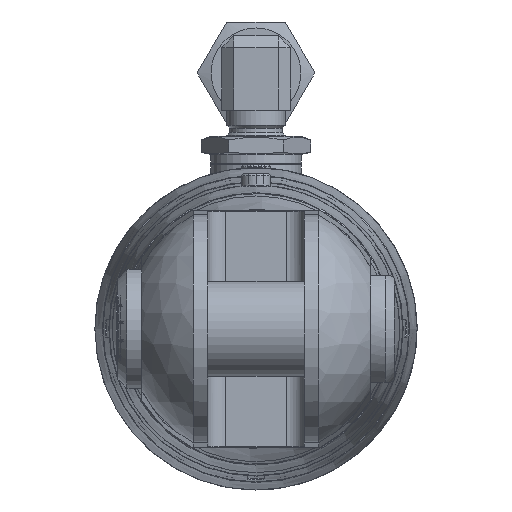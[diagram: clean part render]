
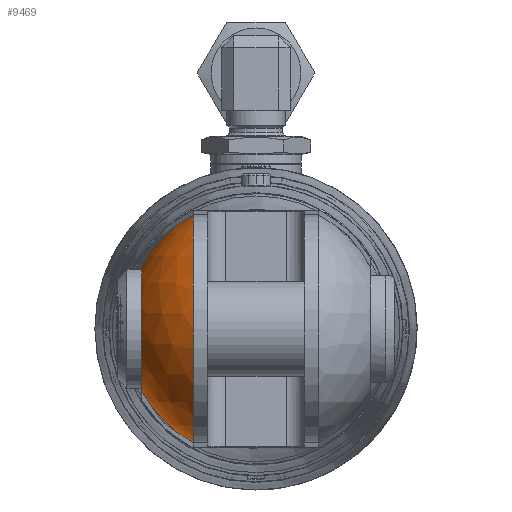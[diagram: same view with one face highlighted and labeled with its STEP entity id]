
A CAD part, left-side view. The second image highlights one B-rep face of the part: STEP entity #9469.
In plain terms, the highlighted spherical face has radius 21.732 mm.
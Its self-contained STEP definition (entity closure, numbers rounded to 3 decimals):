
#48=SPHERICAL_SURFACE('',#10403,21.732);
#1477=CIRCLE('',#10399,21.729);
#1478=CIRCLE('',#10401,21.729);
#1480=CIRCLE('',#10404,19.056);
#1481=CIRCLE('',#10405,10.447);
#1965=FACE_OUTER_BOUND('',#2520,.T.);
#2520=EDGE_LOOP('',(#8211,#8212,#8213,#8214));
#4568=VERTEX_POINT('',#16999);
#4571=VERTEX_POINT('',#17012);
#4573=VERTEX_POINT('',#17019);
#4574=VERTEX_POINT('',#17024);
#5827=EDGE_CURVE('',#4571,#4568,#1477,.T.);
#5829=EDGE_CURVE('',#4573,#4574,#1478,.T.);
#5834=EDGE_CURVE('',#4573,#4568,#1480,.T.);
#5835=EDGE_CURVE('',#4571,#4574,#1481,.T.);
#8211=ORIENTED_EDGE('',*,*,#5834,.T.);
#8212=ORIENTED_EDGE('',*,*,#5827,.F.);
#8213=ORIENTED_EDGE('',*,*,#5835,.T.);
#8214=ORIENTED_EDGE('',*,*,#5829,.F.);
#9469=ADVANCED_FACE('',(#1965),#48,.T.);
#10399=AXIS2_PLACEMENT_3D('',#17016,#12677,#12678);
#10401=AXIS2_PLACEMENT_3D('',#17025,#12681,#12682);
#10403=AXIS2_PLACEMENT_3D('',#17039,#12685,#12686);
#10404=AXIS2_PLACEMENT_3D('',#17040,#12687,#12688);
#10405=AXIS2_PLACEMENT_3D('',#17041,#12689,#12690);
#12677=DIRECTION('center_axis',(1.,0.,0.));
#12678=DIRECTION('ref_axis',(0.,0.,
1.));
#12681=DIRECTION('center_axis',(1.,0.,0.));
#12682=DIRECTION('ref_axis',(0.,0.,
1.));
#12685=DIRECTION('center_axis',(0.,0.,1.));
#12686=DIRECTION('ref_axis',(-1.,0.,0.));
#12687=DIRECTION('center_axis',(0.,1.,0.));
#12688=DIRECTION('ref_axis',(-0.018,0.,1.));
#12689=DIRECTION('center_axis',(0.,-1.,0.));
#12690=DIRECTION('ref_axis',(0.,0.,
-1.));
#16999=CARTESIAN_POINT('',(-834.135,10.447,19.052));
#17012=CARTESIAN_POINT('',(-834.135,19.056,10.441));
#17016=CARTESIAN_POINT('Origin',(-834.135,0.,
0.));
#17019=CARTESIAN_POINT('',(-834.135,10.447,-19.052));
#17024=CARTESIAN_POINT('',(-834.135,19.056,-10.441));
#17025=CARTESIAN_POINT('Origin',(-834.135,0.,
0.));
#17039=CARTESIAN_POINT('Origin',(-833.768,0.,0.));
#17040=CARTESIAN_POINT('Origin',(-833.768,10.447,0.));
#17041=CARTESIAN_POINT('Origin',(-833.768,19.056,0.));
